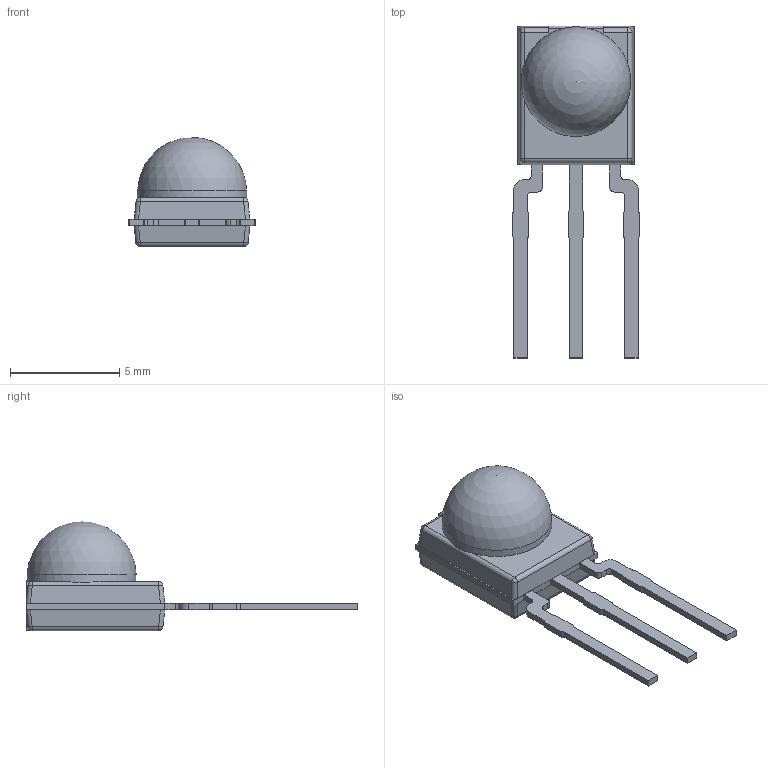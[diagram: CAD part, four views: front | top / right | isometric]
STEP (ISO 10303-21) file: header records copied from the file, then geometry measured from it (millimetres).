
FILE_DESCRIPTION(/* description */ ('Mold body'),/* implementation_level */ '2;1');
FILE_NAME(/* name */ 'C:\Temp\__Stepfile_Datenbank_Vishay\Hauschildt\3D-files\Minimold\Minimold_SS.stp',/* time_stamp */ '2016-07-01T08:01:46+02:00',/* author */ ('gobenland'),/* organization */ (''),/* preprocessor_version */ 'ST-DEVELOPER v16.1',/* originating_system */ 'Autodesk Inventor 2016',/* authorisation */ '');
FILE_SCHEMA (('AUTOMOTIVE_DESIGN { 1 0 10303 214 3 1 1 }'));
Length unit declared in the file: millimetre
Products named in the file (3): GO-100226; GO-100226.01; GO-100226.1
Assembly tree (2 placements, depth 2):
  GO-100226.1
    GO-100226
    GO-100226.01
Bounding box: 5.81 x 15.2 x 5 mm (x, y, z)
Volume: 115.9 mm3; surface area: 188.7 mm2
Topology: 4 solids, 4 shells, 116 faces, 291 edges, 183 vertices
Faces by surface type: plane 65, cylinder 41, sphere 9, cone 1
Full cylindrical faces by diameter (mm): 2.5 x1
Entity records: 3617 total; most frequent: DIRECTION 611, CARTESIAN_POINT 610, ORIENTED_EDGE 572, EDGE_CURVE 286, AXIS2_PLACEMENT_3D 207, LINE 197, VECTOR 197, VERTEX_POINT 181
